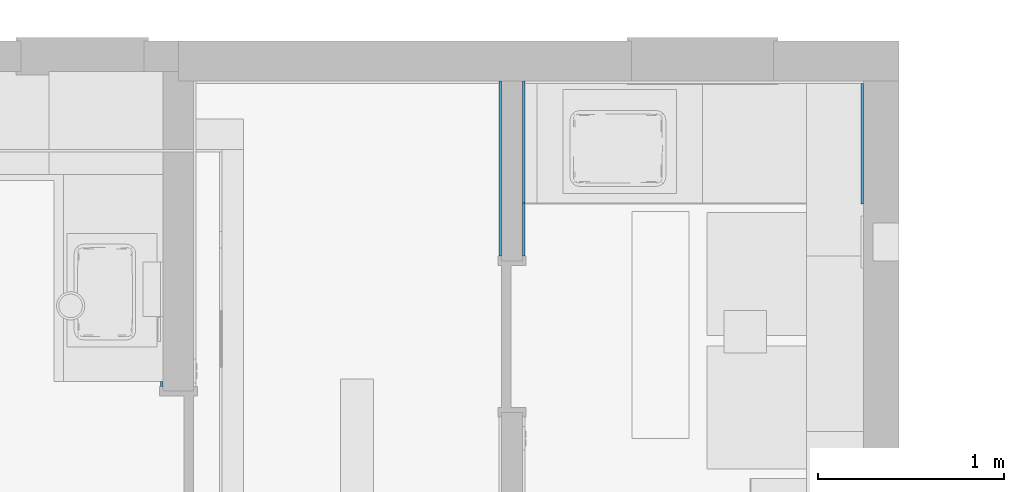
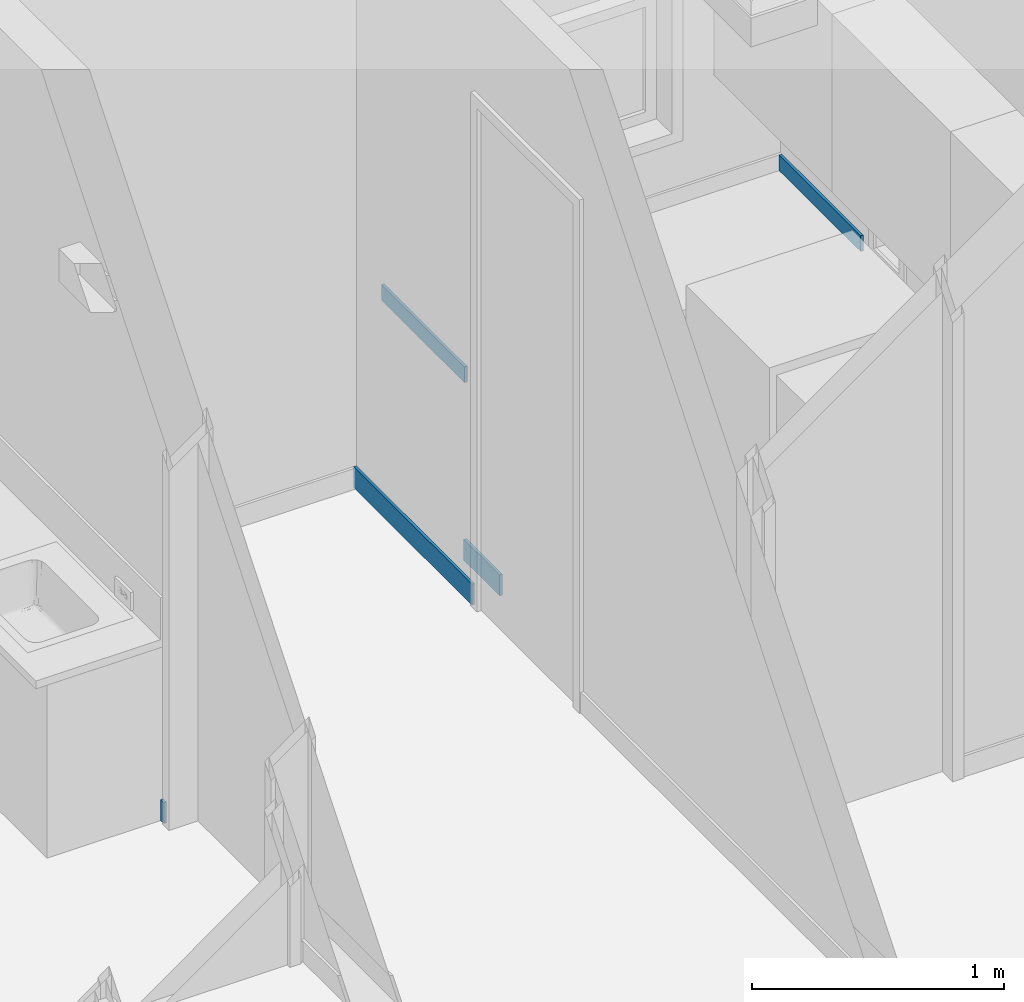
# One storey, part 26 of 60: 5 walls.
"""IFC2X3 building model written with IfcOpenShell, lengths in feet."""

from ifc_helpers import new_model, entity, si_unit, converted_unit, direction, frame, frame_2d, origin, place, context, subcontext, project, spatial, rectangle, extrude, material, layer, layer_set, layer_usage, type_object, element, save


model = new_model("IFC2X3")

# Units and contexts
model_context = context("Model", 3, precision=0.0001, world=origin(), true_north=direction((6.123031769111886e-17, 1.0)))
plan_context = context("Plan", 3, precision=0.0001, world=origin(), true_north=direction((6.123031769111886e-17, 1.0)))
body_context = subcontext(model_context, "Body", "Model", "MODEL_VIEW")
ifc_project = project(units=[converted_unit("LENGTHUNIT", "FOOT", entity("IfcLengthMeasure", 0.3048), si_unit("LENGTHUNIT", "METRE"), dimensions=[1, 0, 0, 0, 0, 0, 0]), converted_unit("AREAUNIT", "SQUARE FOOT", entity("IfcAreaMeasure", 0.09290304), si_unit("AREAUNIT", "SQUARE_METRE"), dimensions=[2, 0, 0, 0, 0, 0, 0]), converted_unit("PLANEANGLEUNIT", "DEGREE", entity("IfcPlaneAngleMeasure", 0.017453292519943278), si_unit("PLANEANGLEUNIT", "RADIAN"), dimensions=[0, 0, 0, 0, 0, 0, 0])], contexts=[model_context, plan_context])

# Site, building, storey
site_placement = place(None, origin())
site = spatial("IfcSite", under=ifc_project, at=site_placement, Name="Default", CompositionType="ELEMENT")
building_placement = place(site_placement, origin())
building = spatial("IfcBuilding", under=site, at=building_placement, CompositionType="ELEMENT")
storey_placement = place(building_placement, origin())
storey = spatial("IfcBuildingStorey", under=building, at=storey_placement, Name="First floor", CompositionType="ELEMENT", Elevation=0.0)

# Walls
ifc_material = material(Name="Default New Material")
ifc_layer = layer(ifc_material, 0.041666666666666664)
ifc_layer_set = layer_set([ifc_layer], Name="Basic Wall:Wall Border_T1")
ifc_layer_usage_1 = layer_usage(ifc_layer_set, "AXIS2", "NEGATIVE", 0.020833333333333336)
wall_type = type_object("IfcWallType", Name="Basic Wall:Wall Border_T1", PredefinedType="STANDARD", material=ifc_layer_set)
wall_1_placement = place(storey_placement, frame((7.39583333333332, 41.957988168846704, 10.666666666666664), z_axis=(0.0, 0.0, 1.0), x_axis=(0.0, 1.0, 0.0)))
element("IfcWallStandardCase", 1, at=wall_1_placement, inside=storey, type_object=wall_type, material=ifc_layer_usage_1, Name="Basic Wall:Wall Border_T1", ObjectType="Basic Wall:Wall Border_T1", context=body_context, shape_type="SweptSolid", body=[
    extrude(rectangle(XDim=0.08333333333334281, YDim=0.041666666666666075, at=frame_2d((0.041666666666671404, 0.0), x_axis=(-1.0, 0.0))), origin(), (0.0, 0.0, 1.0), 0.3333333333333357),
])
ifc_layer_usage_2 = layer_usage(ifc_layer_set, "AXIS2", "NEGATIVE", 0.020833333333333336)
wall_2_placement = place(storey_placement, frame((13.354166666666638, 44.24965483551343, 10.666666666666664), z_axis=(0.0, 0.0, 1.0), x_axis=(0.0, 1.0, 0.0)))
element("IfcWallStandardCase", 2, at=wall_2_placement, inside=storey, type_object=wall_type, material=ifc_layer_usage_2, Name="Basic Wall:Wall Border_T1", ObjectType="Basic Wall:Wall Border_T1", context=body_context, shape_type="SweptSolid", body=[
    extrude(rectangle(XDim=3.0833333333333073, YDim=0.04166666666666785, at=frame_2d((1.5416666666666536, 1.734723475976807e-17), x_axis=(-1.0, 0.0))), origin(), (0.0, 0.0, 1.0), 0.3333333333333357),
])
ifc_layer_usage_3 = layer_usage(ifc_layer_set, "AXIS2", "POSITIVE", -0.020833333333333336)
wall_3_placement = place(storey_placement, frame((13.770833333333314, 44.24965483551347, 10.666666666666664), z_axis=(0.0, 0.0, 1.0), x_axis=(0.0, 1.0, 0.0)))
element("IfcWallStandardCase", 3, at=wall_3_placement, inside=storey, type_object=wall_type, material=ifc_layer_usage_3, Name="Basic Wall:Wall Border_T1", ObjectType="Basic Wall:Wall Border_T1", context=body_context, shape_type="SweptSolid", body=[
    extrude(rectangle(XDim=0.9374999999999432, YDim=0.04166666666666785, at=frame_2d((0.4687499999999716, 0.0), x_axis=(-1.0, 0.0))), origin(), (0.0, 0.0, 1.0), 0.3333333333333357),
])
ifc_layer_usage_4 = layer_usage(ifc_layer_set, "AXIS2", "NEGATIVE", 0.020833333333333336)
wall_4_placement = place(storey_placement, frame((13.770833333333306, 45.16632150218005, 13.5), z_axis=(0.0, 0.0, 1.0), x_axis=(0.0, 1.0, 0.0)))
element("IfcWallStandardCase", 4, at=wall_4_placement, inside=storey, type_object=wall_type, material=ifc_layer_usage_4, Name="Basic Wall:Wall Border_T1", ObjectType="Basic Wall:Wall Border_T1", context=body_context, shape_type="SweptSolid", body=[
    extrude(rectangle(XDim=2.1666666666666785, YDim=0.04166666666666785, at=frame_2d((1.0833333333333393, 5.377642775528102e-17), x_axis=(-1.0, 0.0))), origin(), (0.0, 0.0, 1.0), 0.25),
])
ifc_layer_usage_5 = layer_usage(ifc_layer_set, "AXIS2", "NEGATIVE", 0.020833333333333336)
wall_5_placement = place(storey_placement, frame((19.729166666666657, 47.29132150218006, 13.5), z_axis=(0.0, 0.0, 1.0), x_axis=(0.0, -1.0, 0.0)))
element("IfcWallStandardCase", 5, at=wall_5_placement, inside=storey, type_object=wall_type, material=ifc_layer_usage_5, Name="Basic Wall:Wall Border_T1", ObjectType="Basic Wall:Wall Border_T1", context=body_context, shape_type="SweptSolid", body=[
    extrude(rectangle(XDim=2.125000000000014, YDim=0.0416666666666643, at=frame_2d((1.062500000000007, 3.469446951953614e-17), x_axis=(-1.0, 0.0))), origin(), (0.0, 0.0, 1.0), 0.2500000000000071),
])

save(model, "model.ifc")
